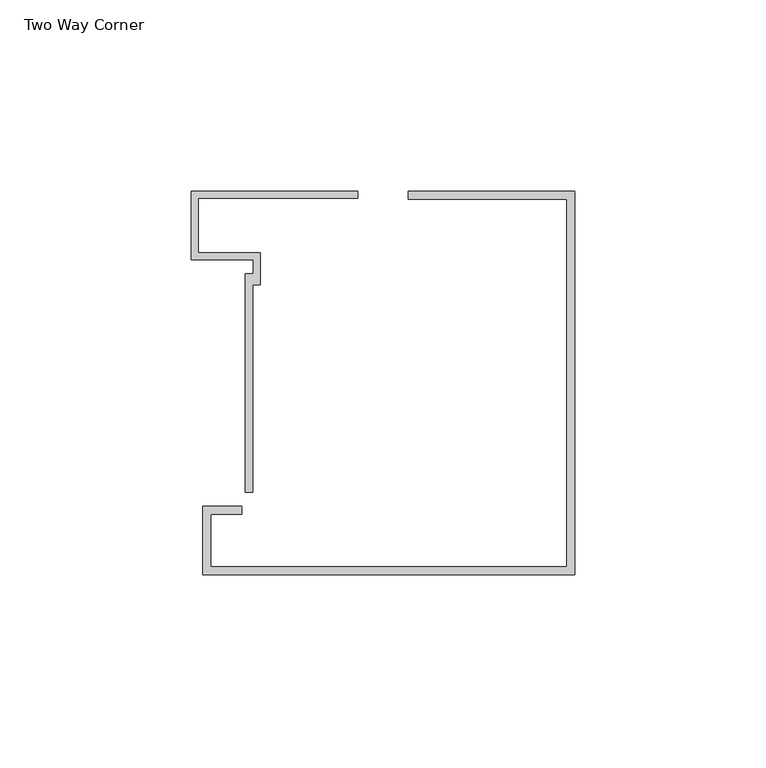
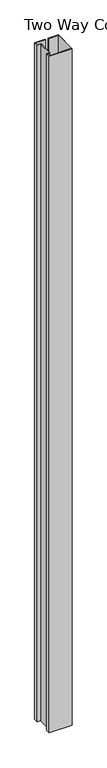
"""IFC4 building model written with IfcOpenShell, lengths in millimetres: proxy geometry, Connection-Corner-Teknion-OptosLP-Two_Way_FZCZ2 : Two Way Corner."""

from ifc_helpers import new_model, si_unit, origin, origin_with_axes, place, context, project, spatial, polyline, outline, extrude, source, transform, mapped, element, save


def two_way_corner_b0e117d9(model_context):
    return source(origin(), model_context, "Body", "SweptSolid", [
        extrude(outline(polyline([(6.5668339, 50.00625), (50.00635, 50.00625), (50.00635, -50.00625), (-47.005969, -50.00625), (-47.005969, -32.2239919), (-36.8446787, -32.2239919), (-36.8446787, -34.25625), (-44.9737109, -34.25625), (-44.9737109, -47.9739919), (47.9740919, -47.9739919), (47.9740919, 47.9739919), (6.5668339, 47.9739919), (6.5668339, 50.00625)])), origin_with_axes(), (0.0, 0.0, 1.0), 3002.5593999),
        extrude(outline(polyline([(-36.004572, 28.578629), (-33.8753016, 28.578629), (-33.8753016, 32.1731855), (-50.00635, 32.1731855), (-50.00635, 50.00625), (-6.5668339, 50.00625), (-6.5668339, 48.2281242), (-48.2281242, 48.2281242), (-48.2281242, 34.0023178), (-32.0970758, 34.0023178), (-32.0970758, 25.6192532), (-33.9723139, 25.6192532), (-33.9723139, -28.578629), (-36.004572, -28.578629), (-36.004572, 28.578629)])), origin_with_axes(), (0.0, 0.0, 1.0), 3002.5593999),
    ])


if __name__ == "__main__":
    model = new_model("IFC4")
    model_context = context("Model", 3, world=origin())
    ifc_project = project(units=[si_unit("LENGTHUNIT", "METRE", prefix="MILLI")], contexts=[model_context])
    site = spatial("IfcSite", under=ifc_project)
    building = spatial("IfcBuilding", under=site)
    placement = place(None, origin())
    two_way_corner_shape = two_way_corner_b0e117d9(model_context)
    element("IfcBuildingElementProxy", 1, Name="Connection-Corner-Teknion-OptosLP-Two_Way_FZCZ2 : Two Way Corner", ObjectType="Connection-Corner-Teknion-OptosLP-Two_Way_FZCZ2 : Two Way Corner", at=placement, inside=building, context=model_context, shape_type="MappedRepresentation", body=[
        mapped(two_way_corner_shape, transform((0.0, 0.0, 0.0), x_axis=(1.0, 0.0, 0.0), y_axis=(0.0, 1.0, 0.0), z_axis=(0.0, 0.0, 1.0))),
    ])
    save(model, "model.ifc")
